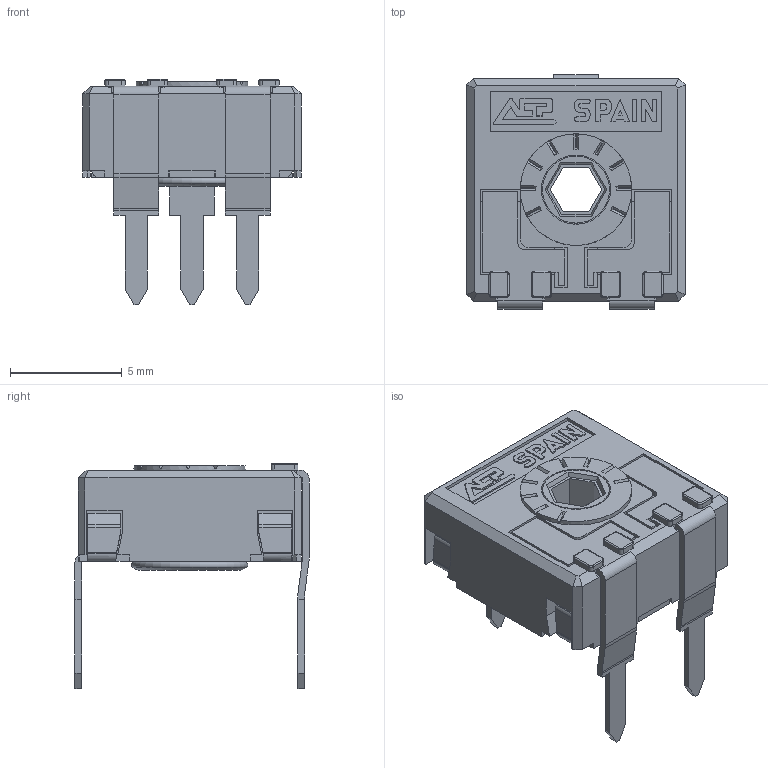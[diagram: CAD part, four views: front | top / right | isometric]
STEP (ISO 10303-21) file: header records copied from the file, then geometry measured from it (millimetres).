
FILE_DESCRIPTION(/* description */ (''),/* implementation_level */ '2;1');
FILE_NAME(/* name */ 'C:\Users\CEM\Desktop\ENVIAR\TRANSICION 3D CATALOGOS\RS9MV10.stp',/* time_stamp */ '2025-11-26T17:36:35+01:00',/* author */ ('CEM'),/* organization */ (''),/* preprocessor_version */ 'ST-DEVELOPER v16.13',/* originating_system */ 'Autodesk Inventor 2018',/* authorisation */ '');
FILE_SCHEMA (('AUTOMOTIVE_DESIGN { 1 0 10303 214 3 1 1 }'));
Length unit declared in the file: millimetre
Products named in the file (1): RS9MV10
Bounding box: 9.8 x 10.5 x 10.1 mm (x, y, z)
Volume: 245.8 mm3; surface area: 857.5 mm2
Topology: 1 solids, 1 shells, 623 faces, 1755 edges, 1124 vertices
Faces by surface type: plane 487, cylinder 96, torus 19, cone 15, bspline 6
Full cylindrical faces by diameter (mm): 3 x2, 3.1 x1, 4 x1, 4.8 x1, 5 x1
Entity records: 20121 total; most frequent: CARTESIAN_POINT 3647, ORIENTED_EDGE 3484, DIRECTION 3246, EDGE_CURVE 1740, LINE 1422, VECTOR 1422, VERTEX_POINT 1121, AXIS2_PLACEMENT_3D 912
